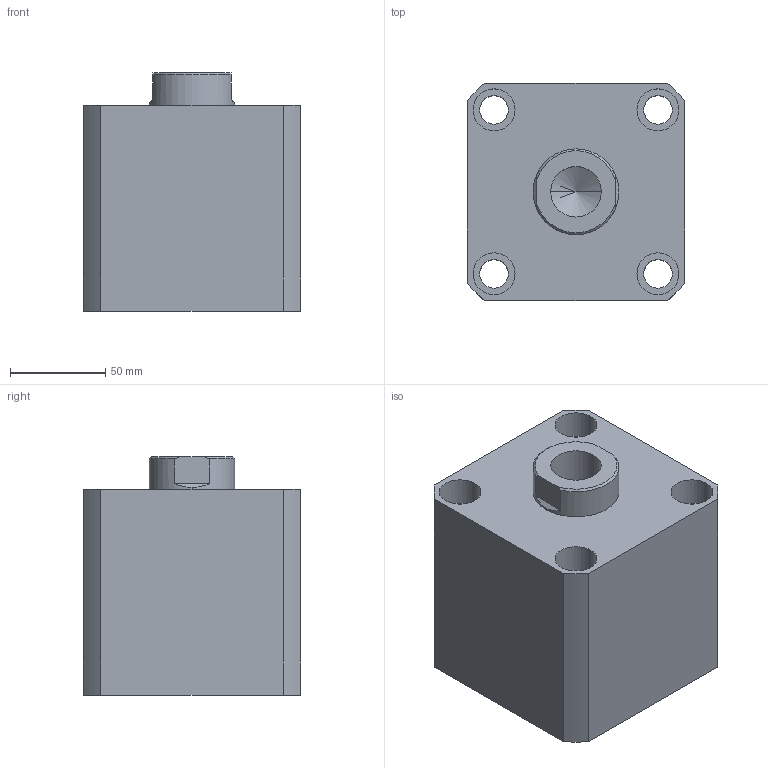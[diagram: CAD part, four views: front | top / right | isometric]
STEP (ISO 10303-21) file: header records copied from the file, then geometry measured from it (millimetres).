
FILE_DESCRIPTION (( 'STEP AP203' ), '1' );
FILE_NAME ('HTB-SDMB80-30N.STEP', '2019-10-09T06:01:35', ( '微软用户' ), ( '微软中国' ), 'SwSTEP 2.0', 'SolidWorks 2012', '' );
FILE_SCHEMA (( 'CONFIG_CONTROL_DESIGN' ));
Length unit declared in the file: millimetre
Products named in the file (3): HTB-SDMB80-30掛极; HTB-SDMB80-30N活塞杆; HTB-SDMB80-30N
Assembly tree (2 placements, depth 2):
  HTB-SDMB80-30N
    HTB-SDMB80-30掛极
    HTB-SDMB80-30N活塞杆
Bounding box: 114 x 114 x 125 mm (x, y, z)
Volume: 1185694.5 mm3; surface area: 153582.7 mm2
Topology: 2 solids, 2 shells, 137 faces, 331 edges, 217 vertices
Faces by surface type: plane 65, cylinder 46, bspline 16, torus 6, cone 4
Entity records: 5070 total; most frequent: CARTESIAN_POINT 1576, ORIENTED_EDGE 658, DIRECTION 647, EDGE_CURVE 329, AXIS2_PLACEMENT_3D 232, VERTEX_POINT 217, LINE 183, VECTOR 183
